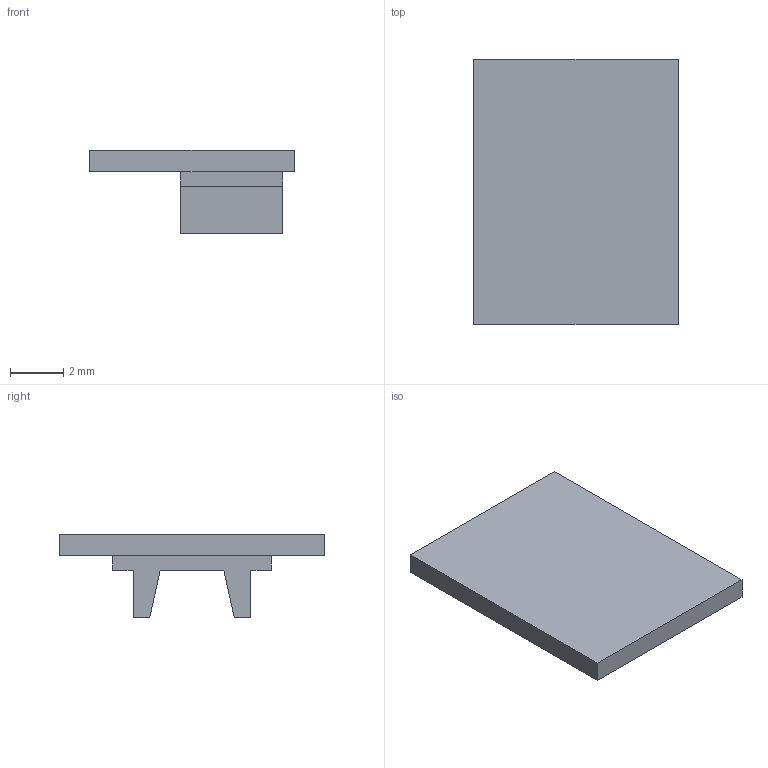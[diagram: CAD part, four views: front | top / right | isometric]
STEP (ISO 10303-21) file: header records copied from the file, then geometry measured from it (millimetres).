
FILE_DESCRIPTION(('Open CASCADE Model'),'2;1');
FILE_NAME('Open CASCADE Shape Model','2024-07-16T17:44:06',('Author'),( 'Open CASCADE'),'Open CASCADE STEP processor 6.5','Open CASCADE 6.5' ,'Unknown');
FILE_SCHEMA(('AUTOMOTIVE_DESIGN { 1 0 10303 214 1 1 1 1 }'));
Length unit declared in the file: millimetre
Products named in the file (20): CADSOFTTOOLS 5; CADSOFTTOOLS 5.1; CADSOFTTOOLS 5.2; CADSOFTTOOLS 5.3; CADSOFTTOOLS 5.4; CADSOFTTOOLS 5.5; CADSOFTTOOLS 5.6; CADSOFTTOOLS 5.7; CADSOFTTOOLS 5.8; CADSOFTTOOLS 5.9; CADSOFTTOOLS 5.10; CADSOFTTOOLS 5.11; CADSOFTTOOLS 5.12; CADSOFTTOOLS 5.13; CADSOFTTOOLS 5.14; CADSOFTTOOLS 5.15; CADSOFTTOOLS 5.16; CADSOFTTOOLS 5.17; CADSOFTTOOLS 5.18; CADSOFTTOOLS 5.19
Assembly tree (19 placements, depth 2):
  CADSOFTTOOLS 5
    CADSOFTTOOLS 5.1
    CADSOFTTOOLS 5.2
    CADSOFTTOOLS 5.3
    CADSOFTTOOLS 5.4
    CADSOFTTOOLS 5.5
    CADSOFTTOOLS 5.6
    CADSOFTTOOLS 5.7
    CADSOFTTOOLS 5.8
    CADSOFTTOOLS 5.9
    CADSOFTTOOLS 5.10
    CADSOFTTOOLS 5.11
    CADSOFTTOOLS 5.12
    CADSOFTTOOLS 5.13
    CADSOFTTOOLS 5.14
    CADSOFTTOOLS 5.15
    CADSOFTTOOLS 5.16
    CADSOFTTOOLS 5.17
    CADSOFTTOOLS 5.18
    CADSOFTTOOLS 5.19
Bounding box: 7.7 x 10 x 3.13 mm (x, y, z)
Surface area: 223.8 mm2 (no closed solid volume)
Topology: 0 solids, 19 shells, 19 faces, 96 edges, 96 vertices
Faces by surface type: plane 19
Entity records: 1990 total; most frequent: CARTESIAN_POINT 327, DIRECTION 270, LINE 192, VECTOR 192, ORIENTED_EDGE 96, EDGE_CURVE 96, VERTEX_POINT 96, SURFACE_CURVE 96
